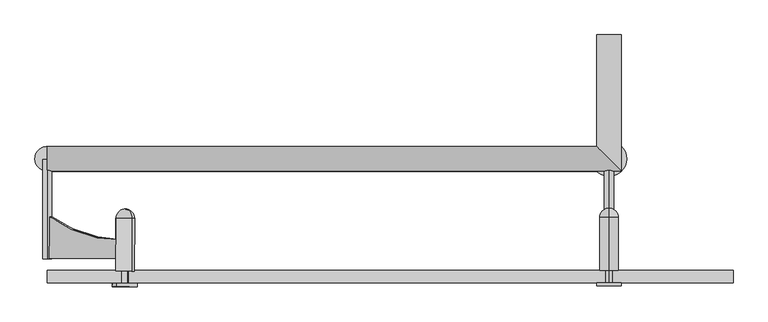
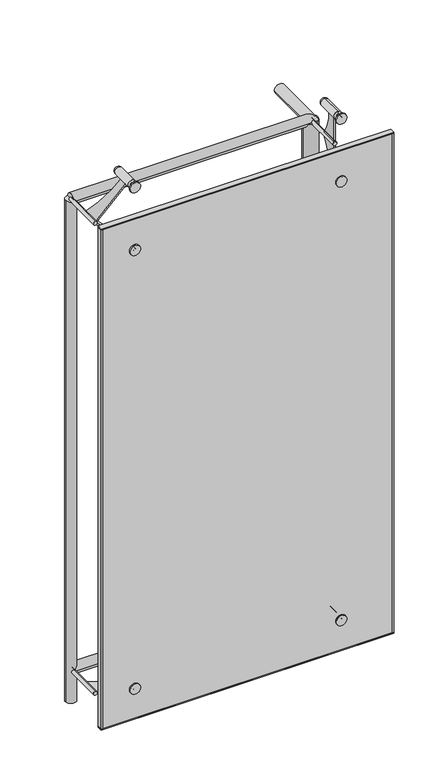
"""IFC4 building model written with IfcOpenShell, lengths in millimetres: plate geometry, FLATNING_TRYOUT_CORNER : FLATNING_TRYOUT_CORNER."""

import ifcopenshell
import ifcopenshell.guid

model = None  # the IFC model being written
_history = None  # IfcOwnerHistory: only IFC2X3 demands one
_inside = {}  # id of a spatial element -> (the spatial element, [elements in it])
_under = {}  # id of a project, library or spatial element -> (it, [spatial elements below it])
_declared = {}  # id of a project -> (the project, [libraries it declares])
_typed = {}  # id of a type object -> (the type object, [elements of that type])
_made_of = {}  # id of a material, layer set ... -> (it, [elements and type objects made of it])


def new_model(schema):
    """Start an empty IFC model of exactly this schema.

    Asked for "IFC4X3", IfcOpenShell would pick the latest addendum, in which some entities
    have other attributes; the version numbers below select the first issue.
    IFC2X3 requires an IfcOwnerHistory on every rooted entity: one is made here for all.
    """
    global model, _history
    if schema == "IFC4X3":
        model = ifcopenshell.file(schema_version=(4, 3, 0, 0))
    else:
        model = ifcopenshell.file(schema=schema)
    _inside.clear()
    _under.clear()
    _declared.clear()
    _typed.clear()
    _made_of.clear()
    _history = None
    if model.schema == "IFC2X3":
        org = make("IfcOrganization", Name="unknown")
        user = make(
            "IfcPersonAndOrganization",
            ThePerson=make("IfcPerson", FamilyName="unknown"),
            TheOrganization=org,
        )
        app = make(
            "IfcApplication",
            ApplicationDeveloper=org,
            Version="unknown",
            ApplicationFullName="unknown",
            ApplicationIdentifier="unknown",
        )
        _history = make(
            "IfcOwnerHistory",
            OwningUser=user,
            OwningApplication=app,
            ChangeAction="ADDED",
            CreationDate=0,
        )
    return model


def make(cls, **values):
    """One entity of the class cls with the attributes given. An attribute that is None is left unset."""
    return model.create_entity(
        cls, **{name: value for name, value in values.items() if value is not None}
    )


def rooted(cls, **values):
    """An entity with a GlobalId (a new one), such as an element, a storey or a relation."""
    return make(cls, GlobalId=ifcopenshell.guid.new(), OwnerHistory=_history, **values)


def si_unit(unit_type, name, prefix=None):
    """IfcSIUnit, for example si_unit("LENGTHUNIT", "METRE", prefix="MILLI")."""
    return make("IfcSIUnit", UnitType=unit_type, Prefix=prefix, Name=name)


def assignment(units):
    """IfcUnitAssignment: the units of a project."""
    return None if units is None else make("IfcUnitAssignment", Units=units)


def point(xyz):
    """IfcCartesianPoint."""
    return None if xyz is None else make("IfcCartesianPoint", Coordinates=xyz)


def direction(xyz):
    """IfcDirection."""
    return None if xyz is None else make("IfcDirection", DirectionRatios=xyz)


def frame(location, z_axis=None, x_axis=None):
    """IfcAxis2Placement3D, a coordinate frame: its origin and axes. An axis left out is left unset."""
    return make(
        "IfcAxis2Placement3D",
        Location=point(location),
        Axis=direction(z_axis),
        RefDirection=direction(x_axis),
    )


def frame_2d(location, x_axis=None):
    """IfcAxis2Placement2D, a coordinate frame in the plane: its origin and x axis."""
    return make(
        "IfcAxis2Placement2D", Location=point(location), RefDirection=direction(x_axis)
    )


def origin():
    """The frame at (0, 0, 0) with its axes left unset."""
    return frame((0.0, 0.0, 0.0))


def origin_with_axes():
    """The frame at (0, 0, 0) with the z axis (0, 0, 1) and the x axis (1, 0, 0) written out."""
    return frame((0.0, 0.0, 0.0), z_axis=(0.0, 0.0, 1.0), x_axis=(1.0, 0.0, 0.0))


def place(relative_to, where):
    """IfcLocalPlacement: puts the frame where relative to a parent placement (None: the world)."""
    return make(
        "IfcLocalPlacement", PlacementRelTo=relative_to, RelativePlacement=where
    )


def context(
    kind, dimensions, precision=None, world=None, true_north=None, identifier=None
):
    """IfcGeometricRepresentationContext, for example the 3D "Model" context."""
    return make(
        "IfcGeometricRepresentationContext",
        ContextIdentifier=identifier,
        ContextType=kind,
        CoordinateSpaceDimension=dimensions,
        Precision=precision,
        WorldCoordinateSystem=world,
        TrueNorth=true_north,
    )


def project(units=None, contexts=None):
    """IfcProject with its units and contexts."""
    return rooted(
        "IfcProject",
        Name="project",
        RepresentationContexts=contexts,
        UnitsInContext=assignment(units),
    )


def spatial(cls, under=None, at=None, **own):
    """A site, building, storey or space (cls), placed at a placement, below another one or the project."""
    s = rooted(cls, ObjectPlacement=at, **own)
    if under is not None:
        _under.setdefault(under.id(), (under, []))[1].append(s)
    return s


def polyline(points):
    """IfcPolyline through the points."""
    return make("IfcPolyline", Points=[point(p) for p in points])


def circle_curve(where, radius):
    """IfcCircle in the frame where."""
    return make("IfcCircle", Position=where, Radius=radius)


def ellipse_curve(where, semi_axis1, semi_axis2):
    """IfcEllipse in the frame where."""
    return make(
        "IfcEllipse", Position=where, SemiAxis1=semi_axis1, SemiAxis2=semi_axis2
    )


def trimmed(basis, trim1, trim2, sense, master):
    """IfcTrimmedCurve: the piece of a basis curve between two trims."""
    return make(
        "IfcTrimmedCurve",
        BasisCurve=basis,
        Trim1=trim1,
        Trim2=trim2,
        SenseAgreement=sense,
        MasterRepresentation=master,
    )


def segment(curve, same_sense, transition):
    """IfcCompositeCurveSegment."""
    return make(
        "IfcCompositeCurveSegment",
        Transition=transition,
        SameSense=same_sense,
        ParentCurve=curve,
    )


def composite_curve(segments, self_intersect=None):
    """IfcCompositeCurve: segments joined end to end."""
    return make("IfcCompositeCurve", Segments=segments, SelfIntersect=self_intersect)


def outline(outer, holes=None, kind="AREA"):
    """IfcArbitraryClosedProfileDef: a profile drawn as a closed curve; with holes, ...WithVoids."""
    if holes is None:
        return make("IfcArbitraryClosedProfileDef", ProfileType=kind, OuterCurve=outer)
    return make(
        "IfcArbitraryProfileDefWithVoids",
        ProfileType=kind,
        OuterCurve=outer,
        InnerCurves=holes,
    )


def extrude(swept, where, along, depth):
    """IfcExtrudedAreaSolid: the profile swept, set in the frame where, extruded along a direction by depth."""
    return make(
        "IfcExtrudedAreaSolid",
        SweptArea=swept,
        Position=where,
        ExtrudedDirection=direction(along),
        Depth=depth,
    )


def shape(context_of_items, identifier, shape_type, items):
    """IfcShapeRepresentation: the items that make up one representation, for example the "Body"."""
    return make(
        "IfcShapeRepresentation",
        ContextOfItems=context_of_items,
        RepresentationIdentifier=identifier,
        RepresentationType=shape_type,
        Items=items,
    )


def source(mapping_origin, context_of_items, identifier, shape_type, items):
    """IfcRepresentationMap: a shape defined once, which mapped items show again and again."""
    return make(
        "IfcRepresentationMap",
        MappingOrigin=mapping_origin,
        MappedRepresentation=shape(context_of_items, identifier, shape_type, items),
    )


def transform(
    local_origin,
    x_axis=None,
    y_axis=None,
    z_axis=None,
    scale=None,
    scale2=None,
    scale3=None,
    uniform=True,
):
    """IfcCartesianTransformationOperator3D, or its non-uniform kind. x_axis, y_axis, z_axis: its Axis1, 2, 3."""
    if uniform:
        return make(
            "IfcCartesianTransformationOperator3D",
            Axis1=direction(x_axis),
            Axis2=direction(y_axis),
            LocalOrigin=point(local_origin),
            Scale=scale,
            Axis3=direction(z_axis),
        )
    return make(
        "IfcCartesianTransformationOperator3DnonUniform",
        Axis1=direction(x_axis),
        Axis2=direction(y_axis),
        LocalOrigin=point(local_origin),
        Scale=scale,
        Axis3=direction(z_axis),
        Scale2=scale2,
        Scale3=scale3,
    )


def mapped(mapping_source, mapping_target):
    """IfcMappedItem: shows the shape of a source again, moved by a transform."""
    return make(
        "IfcMappedItem", MappingSource=mapping_source, MappingTarget=mapping_target
    )


def made_of(thing, what):
    """Note that an element or type object is made of a material, layer set ...; save() writes the relation."""
    if what is not None:
        _made_of.setdefault(what.id(), (what, []))[1].append(thing)
    return thing


def element(
    cls,
    number,
    at=None,
    inside=None,
    cuts=None,
    type_object=None,
    material=None,
    context=None,
    identifier="Body",
    shape_type=None,
    held_by="IfcProductDefinitionShape",
    body=None,
    shapes=None,
    **own,
):
    """One element of the class cls, such as IfcWall. Its Tag is "e" and its number.

    at: its placement. inside: the storey or other place that contains it. cuts: it is an
    opening in that element (IfcRelVoidsElement). A single representation is given by context,
    identifier, shape_type and body (its items); several are given by shapes. held_by: the class
    of the entity that holds the representations. save() writes the other relations.
    """
    e = rooted(cls, Tag="e%d" % number, ObjectPlacement=at, **own)
    if body is not None:
        shapes = [shape(context, identifier, shape_type, body)]
    if shapes is not None:
        e.Representation = make(held_by, Representations=shapes)
    if inside is not None:
        _inside.setdefault(inside.id(), (inside, []))[1].append(e)
    if cuts is not None:
        rooted(
            "IfcRelVoidsElement", RelatingBuildingElement=cuts, RelatedOpeningElement=e
        )
    if type_object is not None:
        _typed.setdefault(type_object.id(), (type_object, []))[1].append(e)
    return made_of(e, material)


def aggregate(whole, parts):
    """IfcRelAggregates: a whole, such as a stair, and the parts it consists of."""
    return rooted("IfcRelAggregates", RelatingObject=whole, RelatedObjects=parts)


def save(model, path):
    """Write the relations noted so far, then the file.

    IfcRelAggregates (storeys below a building ...), IfcRelContainedInSpatialStructure (elements
    in a storey), IfcRelDefinesByType, IfcRelAssociatesMaterial and IfcRelDeclares: one each for
    every whole, place, type object, material and project.
    """
    for whole, parts in _under.values():
        aggregate(whole, parts)
    for where, things in _inside.values():
        rooted(
            "IfcRelContainedInSpatialStructure",
            RelatedElements=things,
            RelatingStructure=where,
        )
    for kind, things in _typed.values():
        rooted("IfcRelDefinesByType", RelatedObjects=things, RelatingType=kind)
    for what, things in _made_of.values():
        rooted("IfcRelAssociatesMaterial", RelatedObjects=things, RelatingMaterial=what)
    for by, libraries in _declared.values():
        rooted("IfcRelDeclares", RelatingContext=by, RelatedDefinitions=libraries)
    model.write(path)


def plane_surface(at):
    """IfcPlane: the flat surface through the origin of the frame at, square to its z axis."""
    return make("IfcPlane", Position=at)


def cylinder_surface(at, radius):
    """IfcCylindricalSurface: all points at the distance radius from the z axis of the frame at."""
    return make("IfcCylindricalSurface", Position=at, Radius=radius)


def revolved_surface(curve, axis_point, axis_direction):
    """IfcSurfaceOfRevolution: the curve turned about the line through axis_point along axis_direction."""
    return make(
        "IfcSurfaceOfRevolution",
        SweptCurve=make("IfcArbitraryOpenProfileDef", ProfileType="CURVE", Curve=curve),
        AxisPosition=make("IfcAxis1Placement", Location=point(axis_point), Axis=direction(axis_direction)),
    )


def advanced_brep(points, edges, surfaces, faces):
    """IfcAdvancedBrep: a solid bounded by faces that lie on surfaces and meet in shared edges.

    An edge is (start, end): straight between two places in points (the first is 0);
    or (start, end, curve); or (start, end, curve, False) where it runs against its curve.
    A face is (place in surfaces, loops), or (place, loops, False) where it looks against
    its surface's normal. A loop lists edges by number (the first is 1), with a minus sign
    where the edge is run from its end to its start. The first loop is the outer one.
    """
    corners = [point(p) for p in points]
    vertices = [make("IfcVertexPoint", VertexGeometry=c) for c in corners]
    made = []
    for start, end, *more in edges:
        made.append(
            make(
                "IfcEdgeCurve",
                EdgeStart=vertices[start],
                EdgeEnd=vertices[end],
                EdgeGeometry=more[0] if more else make("IfcPolyline", Points=[corners[start], corners[end]]),
                SameSense=more[1] if len(more) > 1 else True,
            )
        )
    hull = []
    for where, loops, *sense in faces:
        bounds = []
        for j, loop in enumerate(loops):
            ring = [make("IfcOrientedEdge", EdgeElement=made[abs(k) - 1], Orientation=k > 0) for k in loop]
            bounds.append(
                make(
                    "IfcFaceOuterBound" if j == 0 else "IfcFaceBound",
                    Bound=make("IfcEdgeLoop", EdgeList=ring),
                    Orientation=True,
                )
            )
        hull.append(make("IfcAdvancedFace", Bounds=bounds, FaceSurface=surfaces[where], SameSense=sense[0] if sense else True))
    return make("IfcAdvancedBrep", Outer=make("IfcClosedShell", CfsFaces=hull))


def plate_4a8f0e75(model_context):
    return source(origin(), model_context, "Body", "SolidModel", [
        advanced_brep(
        [(352.5, 0.0, 125.0), (357.5, 0.0, 125.0), (347.5, 0.0, 125.0), (367.5, 20.0, 125.0), (367.5, 105.0, 125.0), (337.5, 105.0, 125.0), (337.5, 20.0, 125.0), (357.5, 20.0, 125.0), (347.5, 20.0, 125.0), (352.5, 120.0, 125.0)],
        [
            (0, 1),
            (1, 2, circle_curve(frame((352.5, 0.0, 125.0), z_axis=(0.0, -1.0, 0.0), x_axis=(-1.0, 0.0, 0.0)), 5.0)),
            (2, 0),
            (2, 1, circle_curve(frame((352.5, 0.0, 125.0), z_axis=(0.0, -1.0, 0.0), x_axis=(-1.0, 0.0, 0.0)), 5.0)),
            (3, 4),
            (4, 5, circle_curve(frame((352.5, 105.0, 125.0), z_axis=(0.0, -1.0, 0.0), x_axis=(-1.0, 0.0, 0.0)), 15.0)),
            (5, 6),
            (6, 3, circle_curve(frame((352.5, 20.0, 125.0), z_axis=(0.0, 1.0, 0.0), x_axis=(-1.0, 0.0, 0.0)), 15.0)),
            (5, 4, circle_curve(frame((352.5, 105.0, 125.0), z_axis=(0.0, -1.0, 0.0), x_axis=(-1.0, 0.0, 0.0)), 15.0)),
            (3, 6, circle_curve(frame((352.5, 20.0, 125.0), z_axis=(0.0, 1.0, 0.0), x_axis=(-1.0, 0.0, 0.0)), 15.0)),
            (7, 3),
            (6, 8),
            (8, 7, circle_curve(frame((352.5, 20.0, 125.0), z_axis=(0.0, 1.0, 0.0), x_axis=(-1.0, 0.0, 0.0)), 5.0)),
            (7, 8, circle_curve(frame((352.5, 20.0, 125.0), z_axis=(0.0, 1.0, 0.0), x_axis=(-1.0, 0.0, 0.0)), 5.0)),
            (1, 7),
            (8, 2),
            (4, 9, circle_curve(frame((352.5, 105.0, 125.0), z_axis=(0.0, 0.0, 1.0), x_axis=(1.0, 0.0, 0.0)), 15.0)),
            (9, 5, circle_curve(frame((352.5, 105.0, 125.0), z_axis=(0.0, 0.0, 1.0), x_axis=(-1.0, 0.0, 0.0)), 15.0)),
        ],
        [
            plane_surface(frame((352.5, 0.0, 125.0), z_axis=(0.0, -1.0, 0.0), x_axis=(-1.0, 0.0, 0.0))),
            cylinder_surface(frame((352.5, -255.0, 125.0), z_axis=(0.0, -1.0, 0.0), x_axis=(-1.0, 0.0, 0.0)), 15.0),
            plane_surface(frame((352.5, 20.0, 125.0), z_axis=(0.0, -1.0, 0.0), x_axis=(-1.0, 0.0, 0.0))),
            cylinder_surface(frame((352.5, -255.0, 125.0), z_axis=(0.0, -1.0, 0.0), x_axis=(-1.0, 0.0, 0.0)), 5.0),
            revolved_surface(trimmed(ellipse_curve(frame((352.5, 105.0, 125.0), z_axis=(0.0, 0.0, 1.0), x_axis=(-1.0, 0.0, 0.0)), 15.0, 15.0), [point((352.5, 120.0, 125.0))], [point((337.5, 105.0, 125.0))], True, "CARTESIAN"), (352.5, -255.0, 125.0), (0.0, -1.0, 0.0)),
        ],
        [
            (0, [[1, 2, 3]]),
            (0, [[-3, 4, -1]]),
            (1, [[5, 6, 7, 8]]),
            (1, [[-7, 9, -5, 10]]),
            (2, [[11, -8, 12, 13]]),
            (2, [[-12, -10, -11, 14]]),
            (3, [[15, -13, 16, -2]]),
            (3, [[-16, -14, -15, -4]]),
            (4, [[17, 18, -6]]),
            (4, [[-18, -17, -9]]),
        ],
    ),
        extrude(outline(composite_curve([segment(polyline([(40.0, 1875.0), (40.0, 2000.0), (110.0, 2000.0)]), True, "CONTINUOUS"), segment(trimmed(circle_curve(frame_2d((298.4556665, 1870.7941867)), 228.4943772), [point((110.0, 2000.0))], [point((70.0, 1875.0))], True, "CARTESIAN"), True, "CONTINUOUS"), segment(polyline([(70.0, 1875.0), (40.0, 1875.0)]), True, "CONTINUOUS")], self_intersect=False)), frame((350.0, 0.0, 0.0), z_axis=(1.0, 0.0, 0.0), x_axis=(0.0, 1.0, 0.0)), (0.0, 0.0, 1.0), 5.0),
        advanced_brep(
        [(352.5, 0.0, 1875.0), (352.5, 0.0, 1870.0), (352.5, 0.0, 1880.0), (352.5, 20.0, 1860.0), (352.5, 105.0, 1860.0), (352.5, 105.0, 1890.0), (352.5, 20.0, 1890.0), (352.5, 20.0, 1870.0), (352.5, 20.0, 1880.0), (352.5, 120.0, 1875.0)],
        [
            (0, 1),
            (1, 2, circle_curve(frame((352.5, 0.0, 1875.0), z_axis=(0.0, -1.0, 0.0), x_axis=(0.0, 0.0, 1.0)), 5.0)),
            (2, 0),
            (2, 1, circle_curve(frame((352.5, 0.0, 1875.0), z_axis=(0.0, -1.0, 0.0), x_axis=(0.0, 0.0, 1.0)), 5.0)),
            (3, 4),
            (4, 5, circle_curve(frame((352.5, 105.0, 1875.0), z_axis=(0.0, -1.0, 0.0), x_axis=(0.0, 0.0, 1.0)), 15.0)),
            (5, 6),
            (6, 3, circle_curve(frame((352.5, 20.0, 1875.0), z_axis=(0.0, 1.0, 0.0), x_axis=(0.0, 0.0, 1.0)), 15.0)),
            (5, 4, circle_curve(frame((352.5, 105.0, 1875.0), z_axis=(0.0, -1.0, 0.0), x_axis=(0.0, 0.0, 1.0)), 15.0)),
            (3, 6, circle_curve(frame((352.5, 20.0, 1875.0), z_axis=(0.0, 1.0, 0.0), x_axis=(0.0, 0.0, 1.0)), 15.0)),
            (7, 3),
            (6, 8),
            (8, 7, circle_curve(frame((352.5, 20.0, 1875.0), z_axis=(0.0, 1.0, 0.0), x_axis=(0.0, 0.0, 1.0)), 5.0)),
            (7, 8, circle_curve(frame((352.5, 20.0, 1875.0), z_axis=(0.0, 1.0, 0.0), x_axis=(0.0, 0.0, 1.0)), 5.0)),
            (1, 7),
            (8, 2),
            (4, 9, circle_curve(frame((352.5, 105.0, 1875.0), z_axis=(1.0, 0.0, 0.0), x_axis=(0.0, 0.0, -1.0)), 15.0)),
            (9, 5, circle_curve(frame((352.5, 105.0, 1875.0), z_axis=(1.0, 0.0, 0.0), x_axis=(0.0, 0.0, 1.0)), 15.0)),
        ],
        [
            plane_surface(frame((352.5, 0.0, 1875.0), z_axis=(0.0, -1.0, 0.0), x_axis=(0.0, 0.0, 1.0))),
            cylinder_surface(frame((352.5, -255.0, 1875.0), z_axis=(0.0, -1.0, 0.0), x_axis=(0.0, 0.0, 1.0)), 15.0),
            plane_surface(frame((352.5, 20.0, 1875.0), z_axis=(0.0, -1.0, 0.0), x_axis=(0.0, 0.0, 1.0))),
            cylinder_surface(frame((352.5, -255.0, 1875.0), z_axis=(0.0, -1.0, 0.0), x_axis=(0.0, 0.0, 1.0)), 5.0),
            revolved_surface(trimmed(ellipse_curve(frame((352.5, 105.0, 1875.0), z_axis=(1.0, 0.0, 0.0), x_axis=(0.0, 0.0, 1.0)), 15.0, 15.0), [point((352.5, 120.0, 1875.0))], [point((352.5, 105.0, 1890.0))], True, "CARTESIAN"), (352.5, -255.0, 1875.0), (0.0, -1.0, 0.0)),
        ],
        [
            (0, [[1, 2, 3]]),
            (0, [[-3, 4, -1]]),
            (1, [[5, 6, 7, 8]]),
            (1, [[-7, 9, -5, 10]]),
            (2, [[11, -8, 12, 13]]),
            (2, [[-12, -10, -11, 14]]),
            (3, [[15, -13, 16, -2]]),
            (3, [[-16, -14, -15, -4]]),
            (4, [[17, 18, -6]]),
            (4, [[-18, -17, -9]]),
        ],
    ),
        extrude(outline(composite_curve([segment(polyline([(40.0, 2125.0), (70.0, 2125.0)]), True, "CONTINUOUS"), segment(trimmed(circle_curve(frame_2d((298.4556665, 2129.2058133)), 228.4943772), [point((70.0, 2125.0))], [point((110.0, 2000.0))], True, "CARTESIAN"), True, "CONTINUOUS"), segment(polyline([(110.0, 2000.0), (40.0, 2000.0), (40.0, 2125.0)]), True, "CONTINUOUS")], self_intersect=False)), frame((350.0, 0.0, 0.0), z_axis=(1.0, 0.0, 0.0), x_axis=(0.0, 1.0, 0.0)), (0.0, 0.0, 1.0), 5.0),
        advanced_brep(
        [(352.5, 0.0, 2125.0), (352.5, 0.0, 2130.0), (352.5, 0.0, 2120.0), (352.5, 20.0, 2140.0), (352.5, 105.0, 2140.0), (352.5, 105.0, 2110.0), (352.5, 20.0, 2110.0), (352.5, 20.0, 2130.0), (352.5, 20.0, 2120.0), (352.5, 120.0, 2125.0)],
        [
            (0, 1),
            (1, 2, circle_curve(frame((352.5, 0.0, 2125.0), z_axis=(0.0, -1.0, 0.0), x_axis=(0.0, 0.0, -1.0)), 5.0)),
            (2, 0),
            (2, 1, circle_curve(frame((352.5, 0.0, 2125.0), z_axis=(0.0, -1.0, 0.0), x_axis=(0.0, 0.0, -1.0)), 5.0)),
            (3, 4),
            (4, 5, circle_curve(frame((352.5, 105.0, 2125.0), z_axis=(0.0, -1.0, 0.0), x_axis=(0.0, 0.0, -1.0)), 15.0)),
            (5, 6),
            (6, 3, circle_curve(frame((352.5, 20.0, 2125.0), z_axis=(0.0, 1.0, 0.0), x_axis=(0.0, 0.0, -1.0)), 15.0)),
            (5, 4, circle_curve(frame((352.5, 105.0, 2125.0), z_axis=(0.0, -1.0, 0.0), x_axis=(0.0, 0.0, -1.0)), 15.0)),
            (3, 6, circle_curve(frame((352.5, 20.0, 2125.0), z_axis=(0.0, 1.0, 0.0), x_axis=(0.0, 0.0, -1.0)), 15.0)),
            (7, 3),
            (6, 8),
            (8, 7, circle_curve(frame((352.5, 20.0, 2125.0), z_axis=(0.0, 1.0, 0.0), x_axis=(0.0, 0.0, -1.0)), 5.0)),
            (7, 8, circle_curve(frame((352.5, 20.0, 2125.0), z_axis=(0.0, 1.0, 0.0), x_axis=(0.0, 0.0, -1.0)), 5.0)),
            (1, 7),
            (8, 2),
            (4, 9, circle_curve(frame((352.5, 105.0, 2125.0), z_axis=(-1.0, 0.0, 0.0), x_axis=(0.0, 0.0, 1.0)), 15.0)),
            (9, 5, circle_curve(frame((352.5, 105.0, 2125.0), z_axis=(-1.0, 0.0, 0.0), x_axis=(0.0, 0.0, -1.0)), 15.0)),
        ],
        [
            plane_surface(frame((352.5, 0.0, 2125.0), z_axis=(0.0, -1.0, 0.0), x_axis=(0.0, 0.0, -1.0))),
            cylinder_surface(frame((352.5, -255.0, 2125.0), z_axis=(0.0, -1.0, 0.0), x_axis=(0.0, 0.0, -1.0)), 15.0),
            plane_surface(frame((352.5, 20.0, 2125.0), z_axis=(0.0, -1.0, 0.0), x_axis=(0.0, 0.0, -1.0))),
            cylinder_surface(frame((352.5, -255.0, 2125.0), z_axis=(0.0, -1.0, 0.0), x_axis=(0.0, 0.0, -1.0)), 5.0),
            revolved_surface(trimmed(ellipse_curve(frame((352.5, 105.0, 2125.0), z_axis=(-1.0, 0.0, 0.0), x_axis=(0.0, 0.0, -1.0)), 15.0, 15.0), [point((352.5, 120.0, 2125.0))], [point((352.5, 105.0, 2110.0))], True, "CARTESIAN"), (352.5, -255.0, 2125.0), (0.0, -1.0, 0.0)),
        ],
        [
            (0, [[1, 2, 3]]),
            (0, [[-3, 4, -1]]),
            (1, [[5, 6, 7, 8]]),
            (1, [[-7, 9, -5, 10]]),
            (2, [[11, -8, 12, 13]]),
            (2, [[-12, -10, -11, 14]]),
            (3, [[15, -13, 16, -2]]),
            (3, [[-16, -14, -15, -4]]),
            (4, [[17, 18, -6]]),
            (4, [[-18, -17, -9]]),
        ],
    ),
        extrude(outline(composite_curve([segment(polyline([(-30.0, 0.0), (-30.0, 177.0), (40.0, 177.0)]), True, "CONTINUOUS"), segment(trimmed(circle_curve(frame_2d((375.1980994, 8.2292431)), 375.2883348), [point((40.0, 177.0))], [point((0.0, 0.0))], True, "CARTESIAN"), True, "CONTINUOUS"), segment(polyline([(0.0, 0.0), (-30.0, 0.0)]), True, "CONTINUOUS")], self_intersect=False)), frame((-428.7509403, 68.8348526, 1873.232233), z_axis=(0.7070974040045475, -0.0036415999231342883, 0.7071067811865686), x_axis=(0.005150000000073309, 0.9999867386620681, 0.0)), (0.0, 0.0, 1.0), 5.0),
        advanced_brep(
        [(-427.3436968, -1.1733231, 1875.0), (-423.8082098, -1.1915311, 1871.4644661), (-430.8791838, -1.1551151, 1878.5355339), (-416.6342358, 18.7717876, 1864.3933983), (-416.1964858, 103.7706604, 1864.3933983), (-437.4094079, 103.8799084, 1885.6066017), (-437.8471579, 18.8810356, 1885.6066017), (-423.7052098, 18.8082036, 1871.4644661), (-430.7761838, 18.8446196, 1878.5355339), (-426.7256968, 118.8250855, 1875.0)],
        [
            (0, 1),
            (1, 2, circle_curve(frame((-427.3436968, -1.1733231, 1875.0), z_axis=(-0.005150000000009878, -0.9999867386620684, 0.0), x_axis=(-0.7070974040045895, 0.0036415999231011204, 0.7071067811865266)), 5.0)),
            (2, 0),
            (2, 1, circle_curve(frame((-427.3436968, -1.1733231, 1875.0), z_axis=(-0.005150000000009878, -0.9999867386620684, 0.0), x_axis=(-0.7070974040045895, 0.0036415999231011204, 0.7071067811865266)), 5.0)),
            (3, 4),
            (4, 5, circle_curve(frame((-426.8029468, 103.8252844, 1875.0), z_axis=(-0.005150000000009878, -0.9999867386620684, 0.0), x_axis=(-0.7070974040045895, 0.0036415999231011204, 0.7071067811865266)), 15.0)),
            (5, 6),
            (6, 3, circle_curve(frame((-427.2406968, 18.8264116, 1875.0), z_axis=(0.005150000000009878, 0.9999867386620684, 0.0), x_axis=(-0.7070974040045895, 0.0036415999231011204, 0.7071067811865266)), 15.0)),
            (5, 4, circle_curve(frame((-426.8029468, 103.8252844, 1875.0), z_axis=(-0.005150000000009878, -0.9999867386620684, 0.0), x_axis=(-0.7070974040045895, 0.0036415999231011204, 0.7071067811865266)), 15.0)),
            (3, 6, circle_curve(frame((-427.2406968, 18.8264116, 1875.0), z_axis=(0.005150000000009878, 0.9999867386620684, 0.0), x_axis=(-0.7070974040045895, 0.0036415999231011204, 0.7071067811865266)), 15.0)),
            (7, 3),
            (6, 8),
            (8, 7, circle_curve(frame((-427.2406968, 18.8264116, 1875.0), z_axis=(0.005150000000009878, 0.9999867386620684, 0.0), x_axis=(-0.7070974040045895, 0.0036415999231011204, 0.7071067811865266)), 5.0)),
            (7, 8, circle_curve(frame((-427.2406968, 18.8264116, 1875.0), z_axis=(0.005150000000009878, 0.9999867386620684, 0.0), x_axis=(-0.7070974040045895, 0.0036415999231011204, 0.7071067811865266)), 5.0)),
            (1, 7),
            (8, 2),
            (4, 9, circle_curve(frame((-426.8029468, 103.8252844, 1875.0), z_axis=(0.707097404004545, -0.003641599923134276, 0.7071067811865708), x_axis=(0.7070974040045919, -0.003641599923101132, -0.7071067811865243)), 15.0)),
            (9, 5, circle_curve(frame((-426.8029468, 103.8252844, 1875.0), z_axis=(0.7070974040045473, -0.003641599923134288, 0.7071067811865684), x_axis=(-0.7070974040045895, 0.0036415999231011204, 0.7071067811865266)), 15.0)),
        ],
        [
            plane_surface(frame((-427.3436968, -1.1733231, 1875.0), z_axis=(-0.005150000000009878, -0.9999867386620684, 0.0), x_axis=(-0.7070974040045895, 0.0036415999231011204, 0.7071067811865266))),
            cylinder_surface(frame((-430.0731968, -531.1662946, 1875.0), z_axis=(-0.005150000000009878, -0.9999867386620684, 0.0), x_axis=(-0.7070974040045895, 0.0036415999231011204, 0.7071067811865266)), 15.0),
            plane_surface(frame((-427.2406968, 18.8264116, 1875.0), z_axis=(-0.005150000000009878, -0.9999867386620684, 0.0), x_axis=(-0.7070974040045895, 0.0036415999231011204, 0.7071067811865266))),
            cylinder_surface(frame((-430.0731968, -531.1662946, 1875.0), z_axis=(-0.005150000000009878, -0.9999867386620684, 0.0), x_axis=(-0.7070974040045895, 0.0036415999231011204, 0.7071067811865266)), 5.0),
            revolved_surface(trimmed(ellipse_curve(frame((-426.8029468, 103.8252844, 1875.0), z_axis=(0.7070974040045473, -0.003641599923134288, 0.7071067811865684), x_axis=(-0.7070974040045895, 0.0036415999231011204, 0.7071067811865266)), 15.0, 15.0), [point((-426.7256968, 118.8250855, 1875.0))], [point((-437.4094079, 103.8799084, 1885.6066017))], True, "CARTESIAN"), (-430.0731968, -531.1662946, 1875.0), (-0.005150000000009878, -0.9999867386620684, 0.0)),
        ],
        [
            (0, [[1, 2, 3]]),
            (0, [[-3, 4, -1]]),
            (1, [[5, 6, 7, 8]]),
            (1, [[-7, 9, -5, 10]]),
            (2, [[11, -8, 12, 13]]),
            (2, [[-12, -10, -11, 14]]),
            (3, [[15, -13, 16, -2]]),
            (3, [[-16, -14, -15, -4]]),
            (4, [[17, 18, -6]]),
            (4, [[-18, -17, -9]]),
        ],
    ),
        extrude(outline(composite_curve([segment(polyline([(-30.0, 0.0), (-30.0, 177.0), (40.0, 177.0)]), True, "CONTINUOUS"), segment(trimmed(circle_curve(frame_2d((375.1980994, 8.2292431)), 375.2883348), [point((40.0, 177.0))], [point((0.0, 0.0))], True, "CARTESIAN"), True, "CONTINUOUS"), segment(polyline([(0.0, 0.0), (-30.0, 0.0)]), True, "CONTINUOUS")], self_intersect=False)), frame((-425.2127575, 68.8166307, 2123.3901333), z_axis=(-0.7070974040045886, 0.003641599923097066, 0.7071067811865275), x_axis=(0.005150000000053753, 0.9999867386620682, 0.0)), (0.0, 0.0, 1.0), 5.0),
        advanced_brep(
        [(-427.341001, -1.173337, 2125.1579003), (-423.805514, -1.191545, 2128.6934342), (-430.876488, -1.155129, 2121.6223664), (-416.63154, 18.7717738, 2135.764502), (-416.19379, 103.7706466, 2135.764502), (-437.4067121, 103.8798945, 2114.5512986), (-437.8444621, 18.8810218, 2114.5512986), (-423.702514, 18.8081898, 2128.6934342), (-430.773488, 18.8446058, 2121.6223664), (-426.723001, 118.8250716, 2125.1579003)],
        [
            (0, 1),
            (1, 2, circle_curve(frame((-427.341001, -1.173337, 2125.1579003), z_axis=(-0.005149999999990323, -0.9999867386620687, 0.0), x_axis=(-0.7070974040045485, 0.0036415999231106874, -0.7071067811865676)), 5.0)),
            (2, 0),
            (2, 1, circle_curve(frame((-427.341001, -1.173337, 2125.1579003), z_axis=(-0.005149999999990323, -0.9999867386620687, 0.0), x_axis=(-0.7070974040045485, 0.0036415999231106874, -0.7071067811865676)), 5.0)),
            (3, 4),
            (4, 5, circle_curve(frame((-426.800251, 103.8252705, 2125.1579003), z_axis=(-0.005149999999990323, -0.9999867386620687, 0.0), x_axis=(-0.7070974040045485, 0.0036415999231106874, -0.7071067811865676)), 15.0)),
            (5, 6),
            (6, 3, circle_curve(frame((-427.238001, 18.8263978, 2125.1579003), z_axis=(0.005149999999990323, 0.9999867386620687, 0.0), x_axis=(-0.7070974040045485, 0.0036415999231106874, -0.7071067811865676)), 15.0)),
            (5, 4, circle_curve(frame((-426.800251, 103.8252705, 2125.1579003), z_axis=(-0.005149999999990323, -0.9999867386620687, 0.0), x_axis=(-0.7070974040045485, 0.0036415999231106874, -0.7071067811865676)), 15.0)),
            (3, 6, circle_curve(frame((-427.238001, 18.8263978, 2125.1579003), z_axis=(0.005149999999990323, 0.9999867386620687, 0.0), x_axis=(-0.7070974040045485, 0.0036415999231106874, -0.7071067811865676)), 15.0)),
            (7, 3),
            (6, 8),
            (8, 7, circle_curve(frame((-427.238001, 18.8263978, 2125.1579003), z_axis=(0.005149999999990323, 0.9999867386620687, 0.0), x_axis=(-0.7070974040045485, 0.0036415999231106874, -0.7071067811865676)), 5.0)),
            (7, 8, circle_curve(frame((-427.238001, 18.8263978, 2125.1579003), z_axis=(0.005149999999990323, 0.9999867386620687, 0.0), x_axis=(-0.7070974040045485, 0.0036415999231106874, -0.7071067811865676)), 5.0)),
            (1, 7),
            (8, 2),
            (4, 9, circle_curve(frame((-426.800251, 103.8252705, 2125.1579003), z_axis=(-0.707097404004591, 0.0036415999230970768, 0.7071067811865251), x_axis=(0.7070974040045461, -0.0036415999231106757, 0.7071067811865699)), 15.0)),
            (9, 5, circle_curve(frame((-426.800251, 103.8252705, 2125.1579003), z_axis=(-0.7070974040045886, 0.003641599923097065, 0.7071067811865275), x_axis=(-0.7070974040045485, 0.0036415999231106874, -0.7071067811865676)), 15.0)),
        ],
        [
            plane_surface(frame((-427.341001, -1.173337, 2125.1579003), z_axis=(-0.005149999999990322, -0.9999867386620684, 0.0), x_axis=(-0.7070974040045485, 0.0036415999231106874, -0.7071067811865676))),
            cylinder_surface(frame((-430.070501, -531.1663085, 2125.1579003), z_axis=(-0.005149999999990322, -0.9999867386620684, 0.0), x_axis=(-0.7070974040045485, 0.0036415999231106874, -0.7071067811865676)), 15.0),
            plane_surface(frame((-427.238001, 18.8263978, 2125.1579003), z_axis=(-0.005149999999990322, -0.9999867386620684, 0.0), x_axis=(-0.7070974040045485, 0.0036415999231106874, -0.7071067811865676))),
            cylinder_surface(frame((-430.070501, -531.1663085, 2125.1579003), z_axis=(-0.005149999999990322, -0.9999867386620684, 0.0), x_axis=(-0.7070974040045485, 0.0036415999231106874, -0.7071067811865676)), 5.0),
            revolved_surface(trimmed(ellipse_curve(frame((-426.800251, 103.8252705, 2125.1579003), z_axis=(-0.7070974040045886, 0.003641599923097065, 0.7071067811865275), x_axis=(-0.7070974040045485, 0.0036415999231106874, -0.7071067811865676)), 15.0, 15.0), [point((-426.723001, 118.8250716, 2125.1579003))], [point((-437.4067121, 103.8798945, 2114.5512986))], True, "CARTESIAN"), (-430.070501, -531.1663085, 2125.1579003), (-0.005149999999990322, -0.9999867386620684, 0.0)),
        ],
        [
            (0, [[1, 2, 3]]),
            (0, [[-3, 4, -1]]),
            (1, [[5, 6, 7, 8]]),
            (1, [[-7, 9, -5, 10]]),
            (2, [[11, -8, 12, 13]]),
            (2, [[-12, -10, -11, 14]]),
            (3, [[15, -13, 16, -2]]),
            (3, [[-16, -14, -15, -4]]),
            (4, [[17, 18, -6]]),
            (4, [[-18, -17, -9]]),
        ],
    ),
        extrude(outline(composite_curve([segment(polyline([(-427.2956577, 38.8269599), (-552.2940001, 39.4707099), (-551.9335001, 109.4697816)]), True, "CONTINUOUS"), segment(trimmed(circle_curve(frame_2d((-421.7588536, 297.257539)), 228.4943772), [point((-551.9335001, 109.4697816))], [point((-427.1411577, 68.8265621))], True, "CARTESIAN"), True, "CONTINUOUS"), segment(polyline([(-427.1411577, 68.8265621), (-427.2956577, 38.8269599)]), True, "CONTINUOUS")], self_intersect=False)), frame((0.0, 0.0, 122.5), z_axis=(0.0, 0.0, 1.0), x_axis=(1.0, 0.0, 0.0)), (0.0, 0.0, 1.0), 5.0),
        advanced_brep(
        [(-427.5016577, -1.1725096, 125.0), (-422.501724, -1.1982596, 125.0), (-432.5015914, -1.1467596, 125.0), (-412.3988566, 18.7499752, 125.0), (-411.9611066, 103.7488479, 125.0), (-441.9607088, 103.9033479, 125.0), (-442.3984588, 18.9044752, 125.0), (-422.398724, 18.8014752, 125.0), (-432.3985914, 18.8529752, 125.0), (-426.8836577, 118.825899, 125.0)],
        [
            (0, 1),
            (1, 2, circle_curve(frame((-427.5016577, -1.1725096, 125.0), z_axis=(-0.0051500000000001, -0.9999867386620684, 0.0), x_axis=(-0.9999867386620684, 0.0051500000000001, 0.0)), 5.0)),
            (2, 0),
            (2, 1, circle_curve(frame((-427.5016577, -1.1725096, 125.0), z_axis=(-0.0051500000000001, -0.9999867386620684, 0.0), x_axis=(-0.9999867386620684, 0.0051500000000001, 0.0)), 5.0)),
            (3, 4),
            (4, 5, circle_curve(frame((-426.9609077, 103.8260979, 125.0), z_axis=(-0.0051500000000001, -0.9999867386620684, 0.0), x_axis=(-0.9999867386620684, 0.0051500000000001, 0.0)), 15.0)),
            (5, 6),
            (6, 3, circle_curve(frame((-427.3986577, 18.8272252, 125.0), z_axis=(0.0051500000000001, 0.9999867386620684, 0.0), x_axis=(-0.9999867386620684, 0.0051500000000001, 0.0)), 15.0)),
            (5, 4, circle_curve(frame((-426.9609077, 103.8260979, 125.0), z_axis=(-0.0051500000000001, -0.9999867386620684, 0.0), x_axis=(-0.9999867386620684, 0.0051500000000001, 0.0)), 15.0)),
            (3, 6, circle_curve(frame((-427.3986577, 18.8272252, 125.0), z_axis=(0.0051500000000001, 0.9999867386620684, 0.0), x_axis=(-0.9999867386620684, 0.0051500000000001, 0.0)), 15.0)),
            (7, 3),
            (6, 8),
            (8, 7, circle_curve(frame((-427.3986577, 18.8272252, 125.0), z_axis=(0.0051500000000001, 0.9999867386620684, 0.0), x_axis=(-0.9999867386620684, 0.0051500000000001, 0.0)), 5.0)),
            (7, 8, circle_curve(frame((-427.3986577, 18.8272252, 125.0), z_axis=(0.0051500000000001, 0.9999867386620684, 0.0), x_axis=(-0.9999867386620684, 0.0051500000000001, 0.0)), 5.0)),
            (1, 7),
            (8, 2),
            (4, 9, circle_curve(frame((-426.9609077, 103.8260979, 125.0), z_axis=(0.0, 0.0, 1.0), x_axis=(0.9999867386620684, -0.0051500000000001, 0.0)), 15.0)),
            (9, 5, circle_curve(frame((-426.9609077, 103.8260979, 125.0), z_axis=(0.0, 0.0, 1.0), x_axis=(-0.9999867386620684, 0.0051500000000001, 0.0)), 15.0)),
        ],
        [
            plane_surface(frame((-427.5016577, -1.1725096, 125.0), z_axis=(-0.0051500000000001, -0.9999867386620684, 0.0), x_axis=(-0.9999867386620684, 0.0051500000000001, 0.0))),
            cylinder_surface(frame((-428.8149077, -256.169128, 125.0), z_axis=(-0.0051500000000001, -0.9999867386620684, 0.0), x_axis=(-0.9999867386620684, 0.0051500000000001, 0.0)), 15.0),
            plane_surface(frame((-427.3986577, 18.8272252, 125.0), z_axis=(-0.0051500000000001, -0.9999867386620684, 0.0), x_axis=(-0.9999867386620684, 0.0051500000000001, 0.0))),
            cylinder_surface(frame((-428.8149077, -256.169128, 125.0), z_axis=(-0.0051500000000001, -0.9999867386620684, 0.0), x_axis=(-0.9999867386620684, 0.0051500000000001, 0.0)), 5.0),
            revolved_surface(trimmed(ellipse_curve(frame((-426.9609077, 103.8260979, 125.0), z_axis=(0.0, 0.0, 1.0), x_axis=(-0.9999867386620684, 0.0051500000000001, 0.0)), 15.0, 15.0), [point((-426.8836577, 118.825899, 125.0))], [point((-441.9607088, 103.9033479, 125.0))], True, "CARTESIAN"), (-428.8149077, -256.169128, 125.0), (-0.0051500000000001, -0.9999867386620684, 0.0)),
        ],
        [
            (0, [[1, 2, 3]]),
            (0, [[-3, 4, -1]]),
            (1, [[5, 6, 7, 8]]),
            (1, [[-7, 9, -5, 10]]),
            (2, [[11, -8, 12, 13]]),
            (2, [[-12, -10, -11, 14]]),
            (3, [[15, -13, 16, -2]]),
            (3, [[-16, -14, -15, -4]]),
            (4, [[17, 18, -6]]),
            (4, [[-18, -17, -9]]),
        ],
    ),
        extrude(outline(composite_curve([segment(trimmed(circle_curve(frame_2d((125.0, 352.5)), 20.0), [point((125.0, 372.5))], [point((125.0, 332.5))], False, "CARTESIAN"), True, "CONTINUOUS"), segment(trimmed(circle_curve(frame_2d((125.0, 352.5)), 20.0), [point((125.0, 332.5))], [point((125.0, 372.5))], False, "CARTESIAN"), True, "CONTINUOUS")], self_intersect=False)), frame((0.0, -5.0, 0.0), z_axis=(0.0, 1.0, 0.0), x_axis=(0.0, 0.0, 1.0)), (0.0, 0.0, 1.0), 5.0),
        extrude(outline(composite_curve([segment(trimmed(circle_curve(frame_2d((1875.0, 352.5)), 20.0), [point((1875.0, 372.5))], [point((1875.0, 332.5))], False, "CARTESIAN"), True, "CONTINUOUS"), segment(trimmed(circle_curve(frame_2d((1875.0, 352.5)), 20.0), [point((1875.0, 332.5))], [point((1875.0, 372.5))], False, "CARTESIAN"), True, "CONTINUOUS")], self_intersect=False)), frame((0.0, -5.0, 0.0), z_axis=(0.0, 1.0, 0.0), x_axis=(0.0, 0.0, 1.0)), (0.0, 0.0, 1.0), 5.0),
        extrude(outline(composite_curve([segment(trimmed(circle_curve(frame_2d((2125.0, 352.5)), 20.0), [point((2125.0, 372.5))], [point((2125.0, 332.5))], False, "CARTESIAN"), True, "CONTINUOUS"), segment(trimmed(circle_curve(frame_2d((2125.0, 352.5)), 20.0), [point((2125.0, 332.5))], [point((2125.0, 372.5))], False, "CARTESIAN"), True, "CONTINUOUS")], self_intersect=False)), frame((0.0, -5.0, 0.0), z_axis=(0.0, 1.0, 0.0), x_axis=(0.0, 0.0, 1.0)), (0.0, 0.0, 1.0), 5.0),
        advanced_brep(
        [(-552.5, 220.0, 2000.0), (-552.5, 180.0, 2000.0), (372.5, 180.0, 2000.0), (332.5, 220.0, 2000.0), (332.5, 400.0, 2000.0), (372.5, 400.0, 2000.0)],
        [
            (0, 1, circle_curve(frame((-552.5, 200.0, 2000.0), z_axis=(-1.0, 0.0, 0.0), x_axis=(0.0, -1.0, 0.0)), 20.0)),
            (1, 0, circle_curve(frame((-552.5, 200.0, 2000.0), z_axis=(-1.0, 0.0, 0.0), x_axis=(0.0, -1.0, 0.0)), 20.0)),
            (1, 2),
            (2, 3, ellipse_curve(frame((352.5, 200.0, 2000.0), z_axis=(-0.7071067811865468, -0.7071067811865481, 0.0), x_axis=(-0.7071067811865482, 0.7071067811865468, 0.0)), 28.2842712, 20.0)),
            (3, 0),
            (3, 2, ellipse_curve(frame((352.5, 200.0, 2000.0), z_axis=(-0.7071067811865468, -0.7071067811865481, 0.0), x_axis=(-0.7071067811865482, 0.7071067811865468, 0.0)), 28.2842712, 20.0)),
            (4, 5, circle_curve(frame((352.5, 400.0, 2000.0), z_axis=(0.0, 1.0, 0.0), x_axis=(1.0, 0.0, 0.0)), 20.0)),
            (5, 4, circle_curve(frame((352.5, 400.0, 2000.0), z_axis=(0.0, 1.0, 0.0), x_axis=(1.0, 0.0, 0.0)), 20.0)),
            (2, 5),
            (4, 3),
        ],
        [
            plane_surface(frame((-552.5, 200.0, 0.0), z_axis=(-1.0, 0.0, 0.0), x_axis=(0.0, 0.0, 1.0))),
            cylinder_surface(frame((-552.5, 200.0, 2000.0), z_axis=(-1.0, 0.0, 0.0), x_axis=(0.0, -1.0, 0.0)), 20.0),
            plane_surface(frame((352.5, 400.0, 0.0), z_axis=(0.0, 1.0, 0.0), x_axis=(0.0, 0.0, 1.0))),
            cylinder_surface(frame((352.5, 200.0, 2000.0), z_axis=(0.0, -1.0, 0.0), x_axis=(1.0, 0.0, 0.0)), 20.0),
        ],
        [
            (0, [[1, 2]]),
            (1, [[3, 4, 5, -2]]),
            (1, [[-5, 6, -3, -1]]),
            (2, [[7, 8]]),
            (3, [[9, -7, 10, -4]]),
            (3, [[-10, -8, -9, -6]]),
        ],
    ),
        advanced_brep(
        [(-552.5, 220.0, 125.0), (-552.5, 180.0, 125.0), (372.5, 180.0, 125.0), (332.5, 220.0, 125.0), (332.5, 400.0, 125.0), (372.5, 400.0, 125.0)],
        [
            (0, 1, circle_curve(frame((-552.5, 200.0, 125.0), z_axis=(-1.0, 0.0, 0.0), x_axis=(0.0, -1.0, 0.0)), 20.0)),
            (1, 0, circle_curve(frame((-552.5, 200.0, 125.0), z_axis=(-1.0, 0.0, 0.0), x_axis=(0.0, -1.0, 0.0)), 20.0)),
            (1, 2),
            (2, 3, ellipse_curve(frame((352.5, 200.0, 125.0), z_axis=(-0.7071067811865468, -0.7071067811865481, 0.0), x_axis=(-0.7071067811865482, 0.7071067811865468, 0.0)), 28.2842712, 20.0)),
            (3, 0),
            (3, 2, ellipse_curve(frame((352.5, 200.0, 125.0), z_axis=(-0.7071067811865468, -0.7071067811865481, 0.0), x_axis=(-0.7071067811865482, 0.7071067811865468, 0.0)), 28.2842712, 20.0)),
            (4, 5, circle_curve(frame((352.5, 400.0, 125.0), z_axis=(0.0, 1.0, 0.0), x_axis=(1.0, 0.0, 0.0)), 20.0)),
            (5, 4, circle_curve(frame((352.5, 400.0, 125.0), z_axis=(0.0, 1.0, 0.0), x_axis=(1.0, 0.0, 0.0)), 20.0)),
            (2, 5),
            (4, 3),
        ],
        [
            plane_surface(frame((-552.5, 200.0, 0.0), z_axis=(-1.0, 0.0, 0.0), x_axis=(0.0, 0.0, 1.0))),
            cylinder_surface(frame((-552.5, 200.0, 125.0), z_axis=(-1.0, 0.0, 0.0), x_axis=(0.0, -1.0, 0.0)), 20.0),
            plane_surface(frame((352.5, 400.0, 0.0), z_axis=(0.0, 1.0, 0.0), x_axis=(0.0, 0.0, 1.0))),
            cylinder_surface(frame((352.5, 200.0, 125.0), z_axis=(0.0, -1.0, 0.0), x_axis=(1.0, 0.0, 0.0)), 20.0),
        ],
        [
            (0, [[1, 2]]),
            (1, [[3, 4, 5, -2]]),
            (1, [[-5, 6, -3, -1]]),
            (2, [[7, 8]]),
            (3, [[9, -7, 10, -4]]),
            (3, [[-10, -8, -9, -6]]),
        ],
    ),
        extrude(outline(polyline([(552.5, 20.0), (552.5, 0.0), (-552.5, 0.0), (-552.5, 20.0), (552.5, 20.0)])), origin_with_axes(), (0.0, 0.0, 1.0), 5.0),
        extrude(outline(polyline([(552.5, 20.0), (552.5, 0.0), (-552.5, 0.0), (-552.5, 20.0), (552.5, 20.0)])), frame((0.0, 0.0, 1995.0), z_axis=(0.0, 0.0, 1.0), x_axis=(1.0, 0.0, 0.0)), (0.0, 0.0, 1.0), 5.0),
        extrude(outline(polyline([(547.5, -0.0781286), (547.5, 20.0), (552.5, 20.0), (552.5, -0.0781286), (547.5, -0.0781286)])), frame((0.0, 0.0, 5.0), z_axis=(0.0, 0.0, 1.0), x_axis=(1.0, 0.0, 0.0)), (0.0, 0.0, 1.0), 1990.0),
        extrude(outline(polyline([(-547.5, -0.5287596), (-552.5000001, -0.5287596), (-552.5000001, 20.0), (-547.5, 20.0), (-547.5, -0.5287596)])), frame((0.0, 0.0, 5.0), z_axis=(0.0, 0.0, 1.0), x_axis=(1.0, 0.0, 0.0)), (0.0, 0.0, 1.0), 1990.0),
        extrude(outline(polyline([(547.5, 20.0), (547.5, 0.0), (-547.5, 0.0), (-547.5, 20.0), (547.5, 20.0)])), frame((0.0, 0.0, 5.0), z_axis=(0.0, 0.0, 1.0), x_axis=(1.0, 0.0, 0.0)), (0.0, 0.0, 1.0), 1990.0),
        extrude(outline(composite_curve([segment(trimmed(circle_curve(frame_2d((2000.0, -552.5)), 7.5), [point((1992.5, -552.5))], [point((2007.5, -552.5))], False, "CARTESIAN"), True, "CONTINUOUS"), segment(trimmed(circle_curve(frame_2d((2000.0, -552.5)), 7.5), [point((2007.5, -552.5))], [point((1992.5, -552.5))], False, "CARTESIAN"), True, "CONTINUOUS")], self_intersect=False)), frame((0.0, 38.6528093, 0.0), z_axis=(0.0, 1.0, 0.0), x_axis=(0.0, 0.0, 1.0)), (0.0, 0.0, 1.0), 160.0),
        extrude(outline(composite_curve([segment(trimmed(circle_curve(frame_2d((2000.0, 352.5)), 7.5), [point((1992.5, 352.5))], [point((2007.5, 352.5))], False, "CARTESIAN"), True, "CONTINUOUS"), segment(trimmed(circle_curve(frame_2d((2000.0, 352.5)), 7.5), [point((2007.5, 352.5))], [point((1992.5, 352.5))], False, "CARTESIAN"), True, "CONTINUOUS")], self_intersect=False)), frame((0.0, 39.2242369, 0.0), z_axis=(0.0, 1.0, 0.0), x_axis=(0.0, 0.0, 1.0)), (0.0, 0.0, 1.0), 160.0),
        extrude(outline(composite_curve([segment(trimmed(circle_curve(frame_2d((0.0, 20.0)), 20.0), [point((1e-07, 40.0))], [point((0.0, 0.0))], False, "CARTESIAN"), True, "CONTINUOUS"), segment(trimmed(circle_curve(frame_2d((0.0, 20.0)), 20.0), [point((0.0, 0.0))], [point((1e-07, 40.0))], False, "CARTESIAN"), True, "CONTINUOUS")], self_intersect=False)), frame((-441.642016, -6.0997521, 1889.1421356), z_axis=(0.005150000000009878, 0.9999867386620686, 0.0), x_axis=(0.7070974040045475, -0.0036415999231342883, 0.7071067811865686)), (0.0, 0.0, 1.0), 5.0),
        extrude(outline(composite_curve([segment(trimmed(circle_curve(frame_2d((176.7766953, -156.7766953)), 20.0), [point((176.7766954, -136.7766953))], [point((176.7766953, -176.7766953))], False, "CARTESIAN"), True, "CONTINUOUS"), segment(trimmed(circle_curve(frame_2d((176.7766953, -156.7766953)), 20.0), [point((176.7766953, -176.7766953))], [point((176.7766954, -136.7766953))], False, "CARTESIAN"), True, "CONTINUOUS")], self_intersect=False)), frame((-441.642016, -6.0997521, 1889.1421356), z_axis=(0.005150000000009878, 0.9999867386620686, 0.0), x_axis=(0.7070974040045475, -0.0036415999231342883, 0.7071067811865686)), (0.0, 0.0, 1.0), 5.0),
        extrude(outline(composite_curve([segment(trimmed(circle_curve(frame_2d((125.0, 352.5)), 7.5), [point((117.5, 352.5))], [point((132.5, 352.5))], False, "CARTESIAN"), True, "CONTINUOUS"), segment(trimmed(circle_curve(frame_2d((125.0, 352.5)), 7.5), [point((132.5, 352.5))], [point((117.5, 352.5))], False, "CARTESIAN"), True, "CONTINUOUS")], self_intersect=False)), frame((0.0, 39.2589491, 0.0), z_axis=(0.0, 1.0, 0.0), x_axis=(0.0, 0.0, 1.0)), (0.0, 0.0, 1.0), 160.0),
        extrude(outline(composite_curve([segment(trimmed(circle_curve(frame_2d((125.0, -552.5)), 7.5), [point((117.5, -552.5))], [point((132.5, -552.5))], False, "CARTESIAN"), True, "CONTINUOUS"), segment(trimmed(circle_curve(frame_2d((125.0, -552.5)), 7.5), [point((132.5, -552.5))], [point((117.5, -552.5))], False, "CARTESIAN"), True, "CONTINUOUS")], self_intersect=False)), frame((0.0, 38.8047197, 0.0), z_axis=(0.0, 1.0, 0.0), x_axis=(0.0, 0.0, 1.0)), (0.0, 0.0, 1.0), 160.0),
        extrude(outline(composite_curve([segment(trimmed(circle_curve(frame_2d((0.0, 20.0)), 20.0), [point((0.0, 40.0))], [point((0.0, 0.0))], False, "CARTESIAN"), True, "CONTINUOUS"), segment(trimmed(circle_curve(frame_2d((0.0, 20.0)), 20.0), [point((0.0, 0.0))], [point((0.0, 40.0))], False, "CARTESIAN"), True, "CONTINUOUS")], self_intersect=False)), frame((-447.5278057, -6.0694399, 125.0), z_axis=(0.0051500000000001, 0.9999867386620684, 0.0), x_axis=(0.0, 0.0, 1.0)), (0.0, 0.0, 1.0), 5.0),
        extrude(outline(composite_curve([segment(trimmed(circle_curve(frame_2d((352.5, 200.0)), 28.3), [point((324.2, 200.0))], [point((380.8, 200.0))], False, "CARTESIAN"), True, "CONTINUOUS"), segment(trimmed(circle_curve(frame_2d((352.5, 200.0)), 28.3), [point((380.8, 200.0))], [point((324.2, 200.0))], False, "CARTESIAN"), True, "CONTINUOUS")], self_intersect=False)), origin_with_axes(), (0.0, 0.0, 1.0), 2000.0),
        extrude(outline(composite_curve([segment(trimmed(circle_curve(frame_2d((-552.5, 200.0)), 20.0), [point((-572.5, 200.0))], [point((-532.5, 200.0))], False, "CARTESIAN"), True, "CONTINUOUS"), segment(trimmed(circle_curve(frame_2d((-552.5, 200.0)), 20.0), [point((-532.5, 200.0))], [point((-572.5, 200.0))], False, "CARTESIAN"), True, "CONTINUOUS")], self_intersect=False)), origin_with_axes(), (0.0, 0.0, 1.0), 2000.0),
    ])


if __name__ == "__main__":
    model = new_model("IFC4")
    model_context = context("Model", 3, world=origin())
    ifc_project = project(units=[si_unit("LENGTHUNIT", "METRE", prefix="MILLI")], contexts=[model_context])
    site = spatial("IfcSite", under=ifc_project)
    building = spatial("IfcBuilding", under=site)
    placement = place(None, origin())
    plate_shape = plate_4a8f0e75(model_context)
    element("IfcPlate", 1, ObjectType="FLATNING_TRYOUT_CORNER : FLATNING_TRYOUT_CORNER", at=placement, inside=building, context=model_context, shape_type="MappedRepresentation", body=[
        mapped(plate_shape, transform((0.0, 0.0, 0.0), x_axis=(1.0, 0.0, 0.0), y_axis=(0.0, 1.0, 0.0), z_axis=(0.0, 0.0, 1.0))),
    ])
    save(model, "model.ifc")
